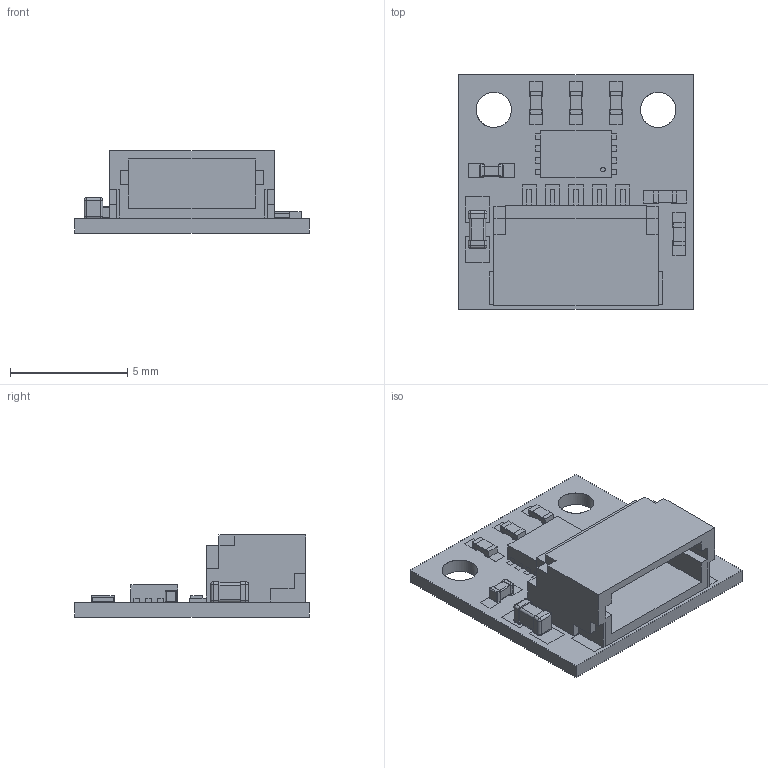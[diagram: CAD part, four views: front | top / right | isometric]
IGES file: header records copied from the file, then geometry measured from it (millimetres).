
Global section: file name: Filename.iges; native system: Open CASCADE 7.4; preprocessor: Open CASCADE IGES processor 7.4; date: 20200730.003227; units: millimetre
Bounding box: 10 x 10 x 3.5 mm (x, y, z)
Surface area: 738 mm2 (no closed solid volume)
Topology: 0 solids, 0 shells, 759 faces, 3638 edges, 4510 vertices
Faces by surface type: plane 691, revolution 68
